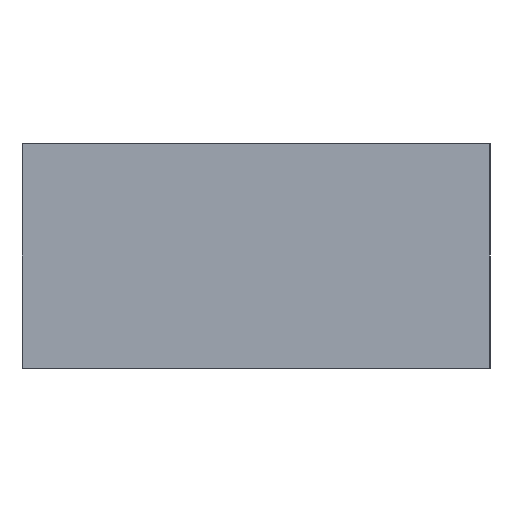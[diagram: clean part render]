
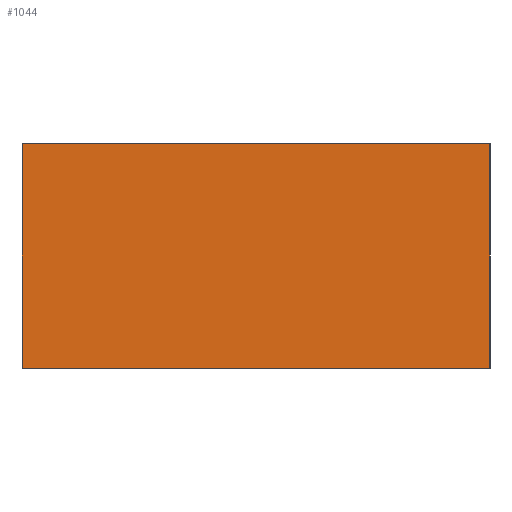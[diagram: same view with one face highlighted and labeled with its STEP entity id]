
A CAD part, left-side view. The second image highlights one B-rep face of the part: STEP entity #1044.
In plain terms, the highlighted planar face has unit normal (-1, 0, 0).
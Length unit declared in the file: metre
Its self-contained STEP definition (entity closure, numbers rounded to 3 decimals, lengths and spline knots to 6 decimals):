
#54=FACE_OUTER_BOUND('',#113,.T.);
#113=EDGE_LOOP('',(#821,#822,#823,#824));
#223=LINE('',#1580,#367);
#224=LINE('',#1582,#368);
#225=LINE('',#1584,#369);
#226=LINE('',#1585,#370);
#367=VECTOR('',#1294,0.01);
#368=VECTOR('',#1295,0.01);
#369=VECTOR('',#1296,0.01);
#370=VECTOR('',#1297,0.01);
#485=VERTEX_POINT('',#1578);
#486=VERTEX_POINT('',#1579);
#487=VERTEX_POINT('',#1581);
#488=VERTEX_POINT('',#1583);
#607=EDGE_CURVE('',#485,#486,#223,.T.);
#608=EDGE_CURVE('',#486,#487,#224,.T.);
#609=EDGE_CURVE('',#488,#487,#225,.T.);
#610=EDGE_CURVE('',#485,#488,#226,.T.);
#821=ORIENTED_EDGE('',*,*,#607,.T.);
#822=ORIENTED_EDGE('',*,*,#608,.T.);
#823=ORIENTED_EDGE('',*,*,#609,.F.);
#824=ORIENTED_EDGE('',*,*,#610,.F.);
#987=PLANE('',#1121);
#1044=ADVANCED_FACE('',(#54),#987,.T.);
#1121=AXIS2_PLACEMENT_3D('',#1577,#1292,#1293);
#1292=DIRECTION('center_axis',(-1.,0.,0.));
#1293=DIRECTION('ref_axis',(0.,-1.,0.));
#1294=DIRECTION('',(0.,-1.,0.));
#1295=DIRECTION('',(0.,0.,1.));
#1296=DIRECTION('',(0.,-1.,0.));
#1297=DIRECTION('',(0.,0.,1.));
#1577=CARTESIAN_POINT('Origin',(-0.2,0.125,0.));
#1578=CARTESIAN_POINT('',(-0.2,0.125,0.));
#1579=CARTESIAN_POINT('',(-0.2,-0.125,0.));
#1580=CARTESIAN_POINT('',(-0.2,0.125,0.));
#1581=CARTESIAN_POINT('',(-0.2,-0.125,0.12));
#1582=CARTESIAN_POINT('',(-0.2,-0.125,0.));
#1583=CARTESIAN_POINT('',(-0.2,0.125,0.12));
#1584=CARTESIAN_POINT('',(-0.2,0.125,0.12));
#1585=CARTESIAN_POINT('',(-0.2,0.125,0.));
